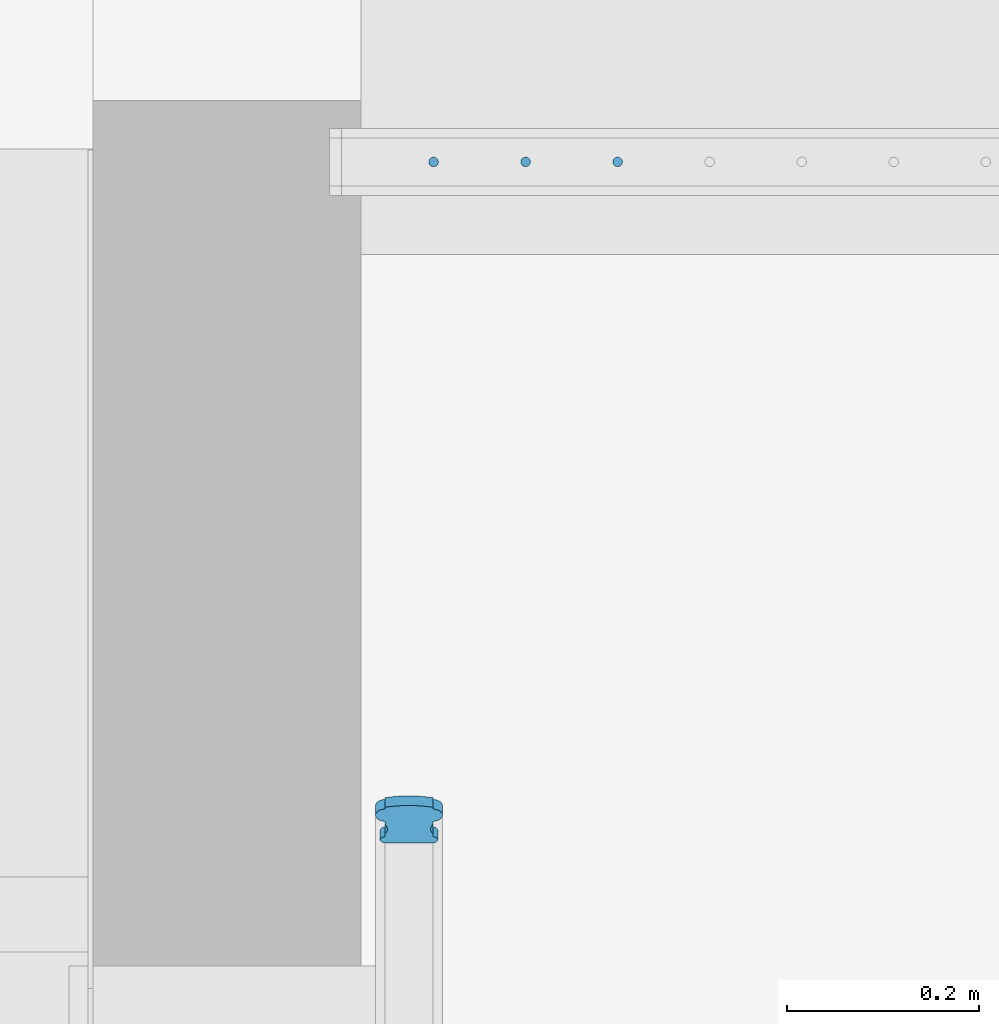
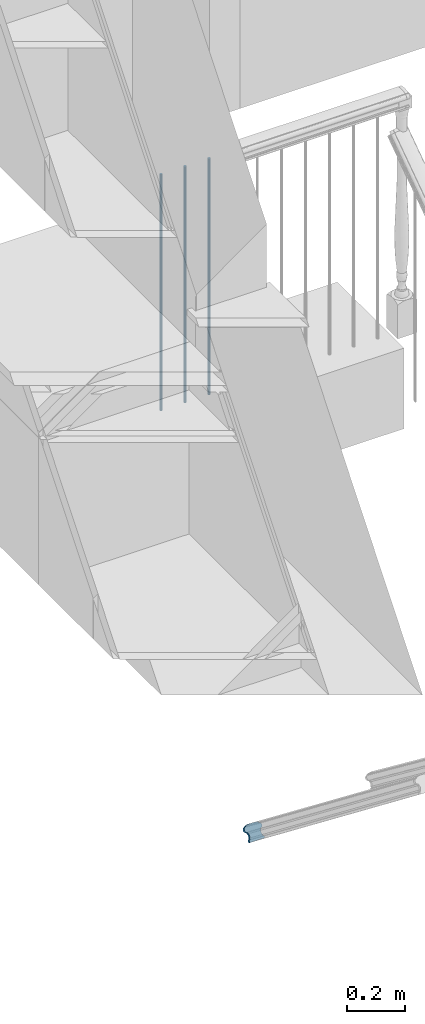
# One storey, part 21 of 77: 4 building element parts, 2 elements without a shape of their own.
"""IFC2X3 building model written with IfcOpenShell, lengths in inches."""

from ifc_helpers import new_model, entity, si_unit, converted_unit, derived_unit, money_unit, direction, frame, origin_with_axes, place, context, subcontext, project, spatial, faceted_brep, material, type_object, element, aggregate, save


model = new_model("IFC2X3")

# Units and contexts
model_context = context("Model", 3, precision=0.000393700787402, world=origin_with_axes(), true_north=direction((0.0, 1.0)))
body_context = subcontext(model_context, "Body", "Model", "MODEL_VIEW")
ifc_project = project(units=[converted_unit("LENGTHUNIT", "INCH", entity("IfcPositiveLengthMeasure", 0.0254), si_unit("LENGTHUNIT", "METRE"), dimensions=[1, 0, 0, 0, 0, 0, 0]), converted_unit("AREAUNIT", "SQUARE_FOOT", entity("IfcPositiveLengthMeasure", 0.09290304), si_unit("AREAUNIT", "SQUARE_METRE"), dimensions=[2, 0, 0, 0, 0, 0, 0]), si_unit("PLANEANGLEUNIT", "RADIAN"), si_unit("SOLIDANGLEUNIT", "STERADIAN"), money_unit("USD"), converted_unit("TIMEUNIT", "Year", entity("IfcTimeMeasure", 31556926.0), si_unit("TIMEUNIT", "SECOND"), dimensions=[0, 0, 1, 0, 0, 0, 0]), si_unit("MASSUNIT", "GRAM", prefix="KILO"), si_unit("THERMODYNAMICTEMPERATUREUNIT", "DEGREE_CELSIUS"), si_unit("LUMINOUSINTENSITYUNIT", "LUMEN"), si_unit("ENERGYUNIT", "JOULE", prefix="MEGA"), derived_unit("THERMALCONDUCTANCEUNIT", [(si_unit("POWERUNIT", "WATT"), 1), (si_unit("LENGTHUNIT", "METRE"), -1), (si_unit("THERMODYNAMICTEMPERATUREUNIT", "KELVIN"), -1)]), derived_unit("SPECIFICHEATCAPACITYUNIT", [(si_unit("ENERGYUNIT", "JOULE"), 1), (si_unit("MASSUNIT", "GRAM", prefix="KILO"), -1), (si_unit("THERMODYNAMICTEMPERATUREUNIT", "KELVIN"), -1)]), derived_unit("MASSDENSITYUNIT", [(si_unit("MASSUNIT", "GRAM", prefix="KILO"), 1), (si_unit("VOLUMEUNIT", "CUBIC_METRE"), -1)])], contexts=[model_context])

# Site, building, storey
site_placement = place(None, origin_with_axes())
site = spatial("IfcSite", under=ifc_project, at=site_placement, Name="Site", CompositionType="ELEMENT")
building_placement = place(site_placement, origin_with_axes())
building = spatial("IfcBuilding", under=site, at=building_placement, Name="Building", CompositionType="ELEMENT")
storey_placement = place(building_placement, frame((0.0, 0.0, 127.952755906), z_axis=(0.0, 0.0, 1.0), x_axis=(1.0, 0.0, 0.0)))
storey = spatial("IfcBuildingStorey", under=building, at=storey_placement, Name="Second Floor", CompositionType="ELEMENT", Elevation=127.953)

# Railing, building element part
railing_type = type_object("IfcRailingType", Name="Railing Type", PredefinedType="NOTDEFINED")
railing_1_placement = place(storey_placement, frame((643.989643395, 72.4015497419, -92.1176470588), z_axis=(0.0, 0.0, 1.0), x_axis=(-1.0, 0.0, 0.0)))
railing_1 = element("IfcRailing", 1, at=railing_1_placement, inside=storey, type_object=railing_type, Name="RAILING - 001", PredefinedType="NOTDEFINED")
ifc_material_1 = material(Name="Wood - Structural")
building_element_part_1_placement = place(railing_1_placement, origin_with_axes())
building_element_part_1 = element("IfcBuildingElementPart", 2, at=building_element_part_1_placement, material=ifc_material_1, Name="Wood - Structural", context=body_context, shape_type="Brep", body=[
    faceted_brep([(-2.9587001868, -45.9531464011, 39.9032696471), (-2.9587001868, -45.8777385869, 39.8065392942), (-2.9587001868, -46.2720724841, 39.4991295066), (-2.9587001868, -46.3474802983, 39.5958598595), (-2.90015196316, -45.961905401, 39.914505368), (-2.53034410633, -46.0044996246, 39.9691436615), (-2.15626030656, -46.025878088, 39.9965671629), (-1.78074756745, -46.025878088, 39.9965671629), (-1.40666376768, -46.0044996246, 39.9691436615), (-1.03685591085, -45.961905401, 39.914505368), (-0.978307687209, -45.9531464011, 39.9032696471), (-0.978307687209, -45.8777385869, 39.8065392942), (-0.944769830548, -45.8767820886, 39.8053123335), (-0.87871314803, -45.8691737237, 39.7955526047), (-0.815682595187, -45.8541881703, 39.7763296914), (-0.757593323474, -45.8322807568, 39.7482276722), (-0.706210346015, -45.8041171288, 39.7121004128), (-0.663094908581, -45.7705530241, 39.6690456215), (-0.62955705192, -45.7326082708, 39.6203714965), (-0.606615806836, -45.6914358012, 39.5675569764), (-0.594968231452, -45.6482866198, 39.5122068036), (-0.594968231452, -45.6044717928, 39.4560027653), (-0.606615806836, -45.5613226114, 39.4006525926), (-0.62955705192, -45.5201501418, 39.3478380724), (-0.663094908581, -45.4822053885, 39.2991639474), (-0.706210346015, -45.4486412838, 39.2561091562), (-0.757593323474, -45.4204776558, 39.2199818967), (-0.815682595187, -45.3985702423, 39.1918798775), (-0.87871314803, -45.3835846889, 39.1726569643), (-0.944769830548, -45.375976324, 39.1628972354), (-0.978307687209, -45.3750198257, 39.1616702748), (-0.978307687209, -45.2493401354, 39.0004530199), (-1.00088455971, -45.230006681, 38.9756527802), (-1.04067773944, -45.184984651, 38.9179001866), (-1.06789787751, -45.1361328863, 38.855234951), (-1.08171790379, -45.0849357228, 38.7895611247), (-1.08171790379, -45.0329487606, 38.7228741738), (-1.06789787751, -44.9817515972, 38.6572003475), (-1.04067773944, -44.9328998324, 38.5945351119), (-1.00088455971, -44.8878778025, 38.5367825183), (-0.978307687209, -44.8685443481, 38.5119822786), (-0.978307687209, -44.7428646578, 38.3507650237), (-0.961538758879, -44.7423864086, 38.3501515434), (-0.928510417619, -44.7385822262, 38.345271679), (-0.896995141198, -44.7310894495, 38.3356602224), (-0.867950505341, -44.7201357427, 38.3216092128), (-0.842259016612, -44.7060539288, 38.303545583), (-0.820701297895, -44.6892718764, 38.2820181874), (-0.803932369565, -44.6702994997, 38.2576811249), (-0.792461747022, -44.6497132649, 38.2312738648), (-0.78663795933, -44.6281386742, 38.2035987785), (-0.78663795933, -44.6062312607, 38.1754967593), (-0.792461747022, -44.5846566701, 38.1478216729), (-0.803932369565, -44.5640704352, 38.1214144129), (-0.820701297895, -44.5450980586, 38.0970773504), (-0.842259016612, -44.5283160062, 38.0755499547), (-0.867950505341, -44.5142341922, 38.057486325), (-0.896995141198, -44.5032804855, 38.0434353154), (-0.928510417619, -44.4957877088, 38.0338238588), (-0.961538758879, -44.4919835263, 38.0289439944), (-0.978307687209, -44.4915052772, 38.028330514), (-2.9587001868, -44.4915052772, 38.028330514), (-2.97546911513, -44.4919835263, 38.0289439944), (-3.00849745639, -44.4957877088, 38.0338238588), (-3.04001273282, -44.5032804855, 38.0434353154), (-3.06905736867, -44.5142341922, 38.057486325), (-3.0947488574, -44.5283160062, 38.0755499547), (-3.11630657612, -44.5450980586, 38.0970773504), (-3.13307550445, -44.5640704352, 38.1214144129), (-3.14454612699, -44.5846566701, 38.1478216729), (-3.15036991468, -44.6062312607, 38.1754967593), (-3.15036991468, -44.6281386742, 38.2035987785), (-3.14454612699, -44.6497132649, 38.2312738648), (-3.13307550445, -44.6702994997, 38.2576811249), (-3.11630657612, -44.6892718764, 38.2820181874), (-3.0947488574, -44.7060539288, 38.303545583), (-3.06905736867, -44.7201357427, 38.3216092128), (-3.04001273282, -44.7310894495, 38.3356602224), (-3.00849745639, -44.7385822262, 38.345271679), (-2.97546911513, -44.7423864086, 38.3501515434), (-2.9587001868, -44.7428646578, 38.3507650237), (-2.9587001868, -44.8685443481, 38.5119822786), (-2.93612331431, -44.8878778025, 38.5367825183), (-2.89633013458, -44.9328998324, 38.5945351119), (-2.86910999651, -44.9817515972, 38.6572003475), (-2.85528997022, -45.0329487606, 38.7228741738), (-2.85528997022, -45.0849357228, 38.7895611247), (-2.86910999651, -45.1361328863, 38.855234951), (-2.89633013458, -45.184984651, 38.9179001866), (-2.93612331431, -45.230006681, 38.9756527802), (-2.9587001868, -45.2493401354, 39.0004530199), (-2.9587001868, -45.3750198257, 39.1616702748), (-2.99223804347, -45.375976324, 39.1628972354), (-3.05829472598, -45.3835846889, 39.1726569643), (-3.12132527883, -45.3985702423, 39.1918798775), (-3.17941455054, -45.4204776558, 39.2199818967), (-3.230797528, -45.4486412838, 39.2561091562), (-3.27391296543, -45.4822053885, 39.2991639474), (-3.30745082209, -45.5201501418, 39.3478380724), (-3.33039206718, -45.5613226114, 39.4006525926), (-3.34203964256, -45.6044717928, 39.4560027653), (-3.34203964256, -45.6482866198, 39.5122068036), (-3.33039206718, -45.6914358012, 39.5675569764), (-3.30745082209, -45.7326082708, 39.6203714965), (-3.27391296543, -45.7705530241, 39.6690456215), (-3.230797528, -45.8041171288, 39.7121004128), (-3.17941455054, -45.8322807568, 39.7482276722), (-3.12132527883, -45.8541881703, 39.7763296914), (-3.05829472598, -45.8691737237, 39.7955526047), (-2.99223804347, -45.8767820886, 39.8053123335), (-2.99223804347, -46.2711159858, 39.4979025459), (-3.05829472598, -46.2635076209, 39.4881428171), (-3.12132527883, -46.2485220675, 39.4689199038), (-3.17941455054, -46.226614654, 39.4408178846), (-3.230797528, -46.198451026, 39.4046906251), (-3.27391296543, -46.1648869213, 39.3616358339), (-3.30745082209, -46.126942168, 39.3129617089), (-3.33039206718, -46.0857696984, 39.2601471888), (-3.34203964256, -46.042620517, 39.204797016), (-3.34203964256, -45.99880569, 39.1485929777), (-3.33039206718, -45.9556565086, 39.0932428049), (-3.30745082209, -45.914484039, 39.0404282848), (-3.27391296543, -45.8765392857, 38.9917541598), (-3.230797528, -45.842975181, 38.9486993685), (-3.17941455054, -45.814811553, 38.9125721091), (-3.12132527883, -45.7929041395, 38.8844700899), (-3.05829472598, -45.7779185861, 38.8652471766), (-2.99223804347, -45.7703102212, 38.8554874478), (-2.9587001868, -45.7693537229, 38.8542604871), (-2.9587001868, -45.6436740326, 38.6930432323), (-2.93612331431, -45.6243405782, 38.6682429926), (-2.89633013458, -45.5793185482, 38.610490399), (-2.86910999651, -45.5304667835, 38.5478251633), (-2.85528997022, -45.47926962, 38.4821513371), (-2.85528997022, -45.4272826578, 38.4154643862), (-2.86910999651, -45.3760854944, 38.3497905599), (-2.89633013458, -45.3272337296, 38.2871253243), (-2.93612331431, -45.2822116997, 38.2293727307), (-2.9587001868, -45.2628782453, 38.204572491), (-2.9587001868, -45.137198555, 38.0433552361), (-2.97546911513, -45.1367203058, 38.0427417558), (-3.00849745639, -45.1329161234, 38.0378618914), (-3.04001273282, -45.1254233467, 38.0282504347), (-3.06905736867, -45.1144696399, 38.0141994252), (-3.0947488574, -45.1003878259, 37.9961357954), (-3.11630657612, -45.0836057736, 37.9746083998), (-3.13307550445, -45.0646333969, 37.9502713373), (-3.14454612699, -45.0440471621, 37.9238640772), (-3.15036991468, -45.0224725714, 37.8961889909), (-3.15036991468, -45.0005651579, 37.8680869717), (-3.14454612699, -44.9789905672, 37.8404118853), (-3.13307550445, -44.9584043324, 37.8140046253), (-3.11630657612, -44.9394319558, 37.7896675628), (-3.0947488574, -44.9226499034, 37.7681401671), (-3.06905736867, -44.9085680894, 37.7500765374), (-3.04001273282, -44.8976143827, 37.7360255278), (-3.00849745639, -44.890121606, 37.7264140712), (-2.97546911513, -44.8863174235, 37.7215342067), (-2.9587001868, -44.8858391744, 37.7209207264), (-0.978307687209, -44.8858391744, 37.7209207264), (-0.961538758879, -44.8863174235, 37.7215342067), (-0.928510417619, -44.890121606, 37.7264140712), (-0.896995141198, -44.8976143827, 37.7360255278), (-0.867950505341, -44.9085680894, 37.7500765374), (-0.842259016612, -44.9226499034, 37.7681401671), (-0.820701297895, -44.9394319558, 37.7896675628), (-0.803932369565, -44.9584043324, 37.8140046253), (-0.792461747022, -44.9789905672, 37.8404118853), (-0.78663795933, -45.0005651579, 37.8680869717), (-0.78663795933, -45.0224725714, 37.8961889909), (-0.792461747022, -45.0440471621, 37.9238640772), (-0.803932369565, -45.0646333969, 37.9502713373), (-0.820701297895, -45.0836057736, 37.9746083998), (-0.842259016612, -45.1003878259, 37.9961357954), (-0.867950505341, -45.1144696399, 38.0141994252), (-0.896995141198, -45.1254233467, 38.0282504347), (-0.928510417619, -45.1329161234, 38.0378618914), (-0.961538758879, -45.1367203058, 38.0427417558), (-0.978307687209, -45.137198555, 38.0433552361), (-0.978307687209, -45.2628782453, 38.204572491), (-1.00088455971, -45.2822116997, 38.2293727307), (-1.04067773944, -45.3272337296, 38.2871253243), (-1.06789787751, -45.3760854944, 38.3497905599), (-1.08171790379, -45.4272826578, 38.4154643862), (-1.08171790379, -45.47926962, 38.4821513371), (-1.06789787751, -45.5304667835, 38.5478251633), (-1.04067773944, -45.5793185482, 38.610490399), (-1.00088455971, -45.6243405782, 38.6682429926), (-0.978307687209, -45.6436740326, 38.6930432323), (-0.978307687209, -45.7693537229, 38.8542604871), (-0.944769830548, -45.7703102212, 38.8554874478), (-0.87871314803, -45.7779185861, 38.8652471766), (-0.815682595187, -45.7929041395, 38.8844700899), (-0.757593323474, -45.814811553, 38.9125721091), (-0.706210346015, -45.842975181, 38.9486993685), (-0.663094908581, -45.8765392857, 38.9917541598), (-0.62955705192, -45.914484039, 39.0404282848), (-0.606615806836, -45.9556565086, 39.0932428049), (-0.594968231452, -45.99880569, 39.1485929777), (-0.594968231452, -46.042620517, 39.204797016), (-0.606615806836, -46.0857696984, 39.2601471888), (-0.62955705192, -46.126942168, 39.3129617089), (-0.663094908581, -46.1648869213, 39.3616358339), (-0.706210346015, -46.198451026, 39.4046906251), (-0.757593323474, -46.226614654, 39.4408178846), (-0.815682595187, -46.2485220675, 39.4689199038), (-0.87871314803, -46.2635076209, 39.4881428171), (-0.944769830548, -46.2711159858, 39.4979025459), (-0.978307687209, -46.2720724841, 39.4991295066), (-0.978307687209, -46.3474802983, 39.5958598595), (-1.03685591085, -46.3562392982, 39.6070955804), (-1.40666376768, -46.3988335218, 39.6617338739), (-1.78074756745, -46.4202119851, 39.6891573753), (-2.15626030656, -46.4202119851, 39.6891573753), (-2.53034410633, -46.3988335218, 39.6617338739), (-2.90015196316, -46.3562392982, 39.6070955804)], [[[0, 1, 2, 3]], [[0, 4, 5, 6, 7, 8, 9, 10, 11, 12, 13, 14, 15, 16, 17, 18, 19, 20, 21, 22, 23, 24, 25, 26, 27, 28, 29, 30, 31, 32, 33, 34, 35, 36, 37, 38, 39, 40, 41, 42, 43, 44, 45, 46, 47, 48, 49, 50, 51, 52, 53, 54, 55, 56, 57, 58, 59, 60, 61, 62, 63, 64, 65, 66, 67, 68, 69, 70, 71, 72, 73, 74, 75, 76, 77, 78, 79, 80, 81, 82, 83, 84, 85, 86, 87, 88, 89, 90, 91, 92, 93, 94, 95, 96, 97, 98, 99, 100, 101, 102, 103, 104, 105, 106, 107, 108, 109, 1]], [[1, 109, 110, 2]], [[3, 2, 110, 111, 112, 113, 114, 115, 116, 117, 118, 119, 120, 121, 122, 123, 124, 125, 126, 127, 128, 129, 130, 131, 132, 133, 134, 135, 136, 137, 138, 139, 140, 141, 142, 143, 144, 145, 146, 147, 148, 149, 150, 151, 152, 153, 154, 155, 156, 157, 158, 159, 160, 161, 162, 163, 164, 165, 166, 167, 168, 169, 170, 171, 172, 173, 174, 175, 176, 177, 178, 179, 180, 181, 182, 183, 184, 185, 186, 187, 188, 189, 190, 191, 192, 193, 194, 195, 196, 197, 198, 199, 200, 201, 202, 203, 204, 205, 206, 207, 208, 209, 210, 211, 212, 213, 214, 215]], [[4, 0, 3, 215]], [[5, 4, 215, 214]], [[6, 5, 214, 213]], [[7, 6, 213, 212]], [[8, 7, 212, 211]], [[9, 8, 211, 210]], [[10, 9, 210, 209]], [[11, 10, 209, 208]], [[12, 11, 208, 207]], [[13, 12, 207, 206]], [[14, 13, 206, 205]], [[15, 14, 205, 204]], [[16, 15, 204, 203]], [[17, 16, 203, 202]], [[18, 17, 202, 201]], [[19, 18, 201, 200]], [[20, 19, 200, 199]], [[21, 20, 199, 198]], [[22, 21, 198, 197]], [[23, 22, 197, 196]], [[24, 23, 196, 195]], [[25, 24, 195, 194]], [[26, 25, 194, 193]], [[27, 26, 193, 192]], [[28, 27, 192, 191]], [[29, 28, 191, 190]], [[30, 29, 190, 189]], [[31, 30, 189, 188]], [[32, 31, 188, 187]], [[33, 32, 187, 186]], [[34, 33, 186, 185]], [[35, 34, 185, 184]], [[36, 35, 184, 183]], [[37, 36, 183, 182]], [[38, 37, 182, 181]], [[39, 38, 181, 180]], [[40, 39, 180, 179]], [[41, 40, 179, 178]], [[42, 41, 178, 177]], [[43, 42, 177, 176]], [[44, 43, 176, 175]], [[45, 44, 175, 174]], [[46, 45, 174, 173]], [[47, 46, 173, 172]], [[48, 47, 172, 171]], [[49, 48, 171, 170]], [[50, 49, 170, 169]], [[51, 50, 169, 168]], [[52, 51, 168, 167]], [[53, 52, 167, 166]], [[54, 53, 166, 165]], [[55, 54, 165, 164]], [[56, 55, 164, 163]], [[57, 56, 163, 162]], [[58, 57, 162, 161]], [[59, 58, 161, 160]], [[60, 59, 160, 159]], [[61, 60, 159, 158]], [[62, 61, 158, 157]], [[63, 62, 157, 156]], [[64, 63, 156, 155]], [[65, 64, 155, 154]], [[66, 65, 154, 153]], [[67, 66, 153, 152]], [[68, 67, 152, 151]], [[69, 68, 151, 150]], [[70, 69, 150, 149]], [[71, 70, 149, 148]], [[72, 71, 148, 147]], [[73, 72, 147, 146]], [[74, 73, 146, 145]], [[75, 74, 145, 144]], [[76, 75, 144, 143]], [[77, 76, 143, 142]], [[78, 77, 142, 141]], [[79, 78, 141, 140]], [[80, 79, 140, 139]], [[81, 80, 139, 138]], [[82, 81, 138, 137]], [[83, 82, 137, 136]], [[84, 83, 136, 135]], [[85, 84, 135, 134]], [[86, 85, 134, 133]], [[87, 86, 133, 132]], [[88, 87, 132, 131]], [[89, 88, 131, 130]], [[90, 89, 130, 129]], [[91, 90, 129, 128]], [[92, 91, 128, 127]], [[93, 92, 127, 126]], [[94, 93, 126, 125]], [[95, 94, 125, 124]], [[96, 95, 124, 123]], [[97, 96, 123, 122]], [[98, 97, 122, 121]], [[99, 98, 121, 120]], [[100, 99, 120, 119]], [[101, 100, 119, 118]], [[102, 101, 118, 117]], [[103, 102, 117, 116]], [[104, 103, 116, 115]], [[105, 104, 115, 114]], [[106, 105, 114, 113]], [[107, 106, 113, 112]], [[108, 107, 112, 111]], [[109, 108, 111, 110]]]),
])
aggregate(railing_1, [building_element_part_1])

# Railing, building element parts
railing_2_placement = place(storey_placement, frame((643.187139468, 142.90717231, 0.0), z_axis=(0.0, 0.0, 1.0), x_axis=(0.0, 1.0, 0.0)))
railing_2 = element("IfcRailing", 3, at=railing_2_placement, inside=storey, type_object=railing_type, Name="RAILING - 001", PredefinedType="NOTDEFINED")
ifc_material_2 = material(Name="Steel - Structural")
building_element_part_2_placement = place(railing_2_placement, origin_with_axes())
building_element_part_2 = element("IfcBuildingElementPart", 4, at=building_element_part_2_placement, material=ifc_material_2, Name="Steel - Structural", context=body_context, shape_type="Brep", body=[
    faceted_brep([(1.96850393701, -3.58498841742, -4.94161422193e-07), (1.93432122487, -3.58797901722, -4.94161422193e-07), (1.93432122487, -3.58797901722, 39.2125984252), (1.96850393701, -3.58498841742, 39.2125984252), (2.00268664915, -3.58797901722, -4.94161422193e-07), (2.03583073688, -3.59685994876, -4.94161422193e-07), (2.06692913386, -3.61136136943, -4.94161422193e-07), (2.09503693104, -3.6310426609, -4.94161422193e-07), (2.11930008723, -3.65530581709, -4.94161422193e-07), (2.1389813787, -3.68341361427, -4.94161422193e-07), (2.15348279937, -3.71451201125, -4.94161422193e-07), (2.16236373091, -3.74765609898, -4.94161422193e-07), (2.16535433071, -3.78183881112, -4.94161422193e-07), (2.16236373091, -3.81602152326, -4.94161422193e-07), (2.15348279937, -3.84916561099, -4.94161422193e-07), (2.1389813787, -3.88026400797, -4.94161422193e-07), (2.11930008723, -3.90837180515, -4.94161422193e-07), (2.09503693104, -3.93263496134, -4.94161422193e-07), (2.06692913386, -3.95231625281, -4.94161422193e-07), (2.03583073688, -3.96681767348, -4.94161422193e-07), (2.00268664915, -3.97569860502, -4.94161422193e-07), (1.96850393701, -3.97868920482, -4.94161422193e-07), (1.93432122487, -3.97569860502, -4.94161422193e-07), (1.90117713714, -3.96681767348, -4.94161422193e-07), (1.87007874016, -3.95231625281, -4.94161422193e-07), (1.84197094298, -3.93263496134, -4.94161422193e-07), (1.81770778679, -3.90837180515, -4.94161422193e-07), (1.79802649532, -3.88026400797, -4.94161422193e-07), (1.78352507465, -3.84916561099, -4.94161422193e-07), (1.77464414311, -3.81602152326, -4.94161422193e-07), (1.77165354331, -3.78183881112, -4.94161422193e-07), (1.77464414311, -3.74765609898, -4.94161422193e-07), (1.78352507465, -3.71451201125, -4.94161422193e-07), (1.79802649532, -3.68341361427, -4.94161422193e-07), (1.81770778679, -3.65530581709, -4.94161422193e-07), (1.84197094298, -3.6310426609, -4.94161422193e-07), (1.87007874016, -3.61136136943, -4.94161422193e-07), (1.90117713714, -3.59685994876, -4.94161422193e-07), (1.90117713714, -3.59685994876, 39.2125984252), (1.87007874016, -3.61136136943, 39.2125984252), (1.84197094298, -3.6310426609, 39.2125984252), (1.81770778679, -3.65530581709, 39.2125984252), (1.79802649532, -3.68341361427, 39.2125984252), (1.78352507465, -3.71451201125, 39.2125984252), (1.77464414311, -3.74765609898, 39.2125984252), (1.77165354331, -3.78183881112, 39.2125984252), (1.77464414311, -3.81602152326, 39.2125984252), (1.78352507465, -3.84916561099, 39.2125984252), (1.79802649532, -3.88026400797, 39.2125984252), (1.81770778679, -3.90837180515, 39.2125984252), (1.84197094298, -3.93263496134, 39.2125984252), (1.87007874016, -3.95231625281, 39.2125984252), (1.90117713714, -3.96681767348, 39.2125984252), (1.93432122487, -3.97569860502, 39.2125984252), (1.96850393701, -3.97868920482, 39.2125984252), (2.00268664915, -3.97569860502, 39.2125984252), (2.03583073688, -3.96681767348, 39.2125984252), (2.06692913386, -3.95231625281, 39.2125984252), (2.09503693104, -3.93263496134, 39.2125984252), (2.11930008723, -3.90837180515, 39.2125984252), (2.1389813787, -3.88026400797, 39.2125984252), (2.15348279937, -3.84916561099, 39.2125984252), (2.16236373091, -3.81602152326, 39.2125984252), (2.16535433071, -3.78183881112, 39.2125984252), (2.16236373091, -3.74765609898, 39.2125984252), (2.15348279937, -3.71451201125, 39.2125984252), (2.1389813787, -3.68341361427, 39.2125984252), (2.11930008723, -3.65530581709, 39.2125984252), (2.09503693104, -3.6310426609, 39.2125984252), (2.06692913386, -3.61136136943, 39.2125984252), (2.03583073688, -3.59685994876, 39.2125984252), (2.00268664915, -3.58797901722, 39.2125984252)], [[[0, 1, 2, 3]], [[0, 4, 5, 6, 7, 8, 9, 10, 11, 12, 13, 14, 15, 16, 17, 18, 19, 20, 21, 22, 23, 24, 25, 26, 27, 28, 29, 30, 31, 32, 33, 34, 35, 36, 37, 1]], [[1, 37, 38, 2]], [[3, 2, 38, 39, 40, 41, 42, 43, 44, 45, 46, 47, 48, 49, 50, 51, 52, 53, 54, 55, 56, 57, 58, 59, 60, 61, 62, 63, 64, 65, 66, 67, 68, 69, 70, 71]], [[4, 0, 3, 71]], [[5, 4, 71, 70]], [[6, 5, 70, 69]], [[7, 6, 69, 68]], [[8, 7, 68, 67]], [[9, 8, 67, 66]], [[10, 9, 66, 65]], [[11, 10, 65, 64]], [[12, 11, 64, 63]], [[13, 12, 63, 62]], [[14, 13, 62, 61]], [[15, 14, 61, 60]], [[16, 15, 60, 59]], [[17, 16, 59, 58]], [[18, 17, 58, 57]], [[19, 18, 57, 56]], [[20, 19, 56, 55]], [[21, 20, 55, 54]], [[22, 21, 54, 53]], [[23, 22, 53, 52]], [[24, 23, 52, 51]], [[25, 24, 51, 50]], [[26, 25, 50, 49]], [[27, 26, 49, 48]], [[28, 27, 48, 47]], [[29, 28, 47, 46]], [[30, 29, 46, 45]], [[31, 30, 45, 44]], [[32, 31, 44, 43]], [[33, 32, 43, 42]], [[34, 33, 42, 41]], [[35, 34, 41, 40]], [[36, 35, 40, 39]], [[37, 36, 39, 38]]]),
])
building_element_part_3_placement = place(railing_2_placement, origin_with_axes())
building_element_part_3 = element("IfcBuildingElementPart", 5, at=building_element_part_3_placement, material=ifc_material_2, Name="Steel - Structural", context=body_context, shape_type="Brep", body=[
    faceted_brep([(1.96850393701, -7.36682722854, -4.94161422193e-07), (1.93432122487, -7.36981782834, -4.94161422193e-07), (1.93432122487, -7.36981782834, 39.2125984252), (1.96850393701, -7.36682722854, 39.2125984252), (2.00268664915, -7.36981782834, -4.94161422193e-07), (2.03583073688, -7.37869875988, -4.94161422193e-07), (2.06692913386, -7.39320018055, -4.94161422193e-07), (2.09503693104, -7.41288147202, -4.94161422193e-07), (2.11930008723, -7.43714462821, -4.94161422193e-07), (2.1389813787, -7.46525242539, -4.94161422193e-07), (2.15348279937, -7.49635082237, -4.94161422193e-07), (2.16236373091, -7.5294949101, -4.94161422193e-07), (2.16535433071, -7.56367762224, -4.94161422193e-07), (2.16236373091, -7.59786033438, -4.94161422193e-07), (2.15348279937, -7.63100442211, -4.94161422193e-07), (2.1389813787, -7.66210281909, -4.94161422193e-07), (2.11930008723, -7.69021061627, -4.94161422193e-07), (2.09503693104, -7.71447377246, -4.94161422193e-07), (2.06692913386, -7.73415506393, -4.94161422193e-07), (2.03583073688, -7.7486564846, -4.94161422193e-07), (2.00268664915, -7.75753741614, -4.94161422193e-07), (1.96850393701, -7.76052801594, -4.94161422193e-07), (1.93432122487, -7.75753741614, -4.94161422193e-07), (1.90117713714, -7.7486564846, -4.94161422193e-07), (1.87007874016, -7.73415506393, -4.94161422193e-07), (1.84197094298, -7.71447377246, -4.94161422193e-07), (1.81770778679, -7.69021061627, -4.94161422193e-07), (1.79802649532, -7.66210281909, -4.94161422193e-07), (1.78352507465, -7.63100442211, -4.94161422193e-07), (1.77464414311, -7.59786033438, -4.94161422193e-07), (1.77165354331, -7.56367762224, -4.94161422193e-07), (1.77464414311, -7.5294949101, -4.94161422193e-07), (1.78352507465, -7.49635082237, -4.94161422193e-07), (1.79802649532, -7.46525242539, -4.94161422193e-07), (1.81770778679, -7.43714462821, -4.94161422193e-07), (1.84197094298, -7.41288147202, -4.94161422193e-07), (1.87007874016, -7.39320018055, -4.94161422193e-07), (1.90117713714, -7.37869875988, -4.94161422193e-07), (1.90117713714, -7.37869875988, 39.2125984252), (1.87007874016, -7.39320018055, 39.2125984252), (1.84197094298, -7.41288147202, 39.2125984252), (1.81770778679, -7.43714462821, 39.2125984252), (1.79802649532, -7.46525242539, 39.2125984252), (1.78352507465, -7.49635082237, 39.2125984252), (1.77464414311, -7.5294949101, 39.2125984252), (1.77165354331, -7.56367762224, 39.2125984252), (1.77464414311, -7.59786033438, 39.2125984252), (1.78352507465, -7.63100442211, 39.2125984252), (1.79802649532, -7.66210281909, 39.2125984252), (1.81770778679, -7.69021061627, 39.2125984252), (1.84197094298, -7.71447377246, 39.2125984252), (1.87007874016, -7.73415506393, 39.2125984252), (1.90117713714, -7.7486564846, 39.2125984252), (1.93432122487, -7.75753741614, 39.2125984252), (1.96850393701, -7.76052801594, 39.2125984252), (2.00268664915, -7.75753741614, 39.2125984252), (2.03583073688, -7.7486564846, 39.2125984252), (2.06692913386, -7.73415506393, 39.2125984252), (2.09503693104, -7.71447377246, 39.2125984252), (2.11930008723, -7.69021061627, 39.2125984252), (2.1389813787, -7.66210281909, 39.2125984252), (2.15348279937, -7.63100442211, 39.2125984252), (2.16236373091, -7.59786033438, 39.2125984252), (2.16535433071, -7.56367762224, 39.2125984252), (2.16236373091, -7.5294949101, 39.2125984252), (2.15348279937, -7.49635082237, 39.2125984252), (2.1389813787, -7.46525242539, 39.2125984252), (2.11930008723, -7.43714462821, 39.2125984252), (2.09503693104, -7.41288147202, 39.2125984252), (2.06692913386, -7.39320018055, 39.2125984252), (2.03583073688, -7.37869875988, 39.2125984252), (2.00268664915, -7.36981782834, 39.2125984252)], [[[0, 1, 2, 3]], [[0, 4, 5, 6, 7, 8, 9, 10, 11, 12, 13, 14, 15, 16, 17, 18, 19, 20, 21, 22, 23, 24, 25, 26, 27, 28, 29, 30, 31, 32, 33, 34, 35, 36, 37, 1]], [[1, 37, 38, 2]], [[3, 2, 38, 39, 40, 41, 42, 43, 44, 45, 46, 47, 48, 49, 50, 51, 52, 53, 54, 55, 56, 57, 58, 59, 60, 61, 62, 63, 64, 65, 66, 67, 68, 69, 70, 71]], [[4, 0, 3, 71]], [[5, 4, 71, 70]], [[6, 5, 70, 69]], [[7, 6, 69, 68]], [[8, 7, 68, 67]], [[9, 8, 67, 66]], [[10, 9, 66, 65]], [[11, 10, 65, 64]], [[12, 11, 64, 63]], [[13, 12, 63, 62]], [[14, 13, 62, 61]], [[15, 14, 61, 60]], [[16, 15, 60, 59]], [[17, 16, 59, 58]], [[18, 17, 58, 57]], [[19, 18, 57, 56]], [[20, 19, 56, 55]], [[21, 20, 55, 54]], [[22, 21, 54, 53]], [[23, 22, 53, 52]], [[24, 23, 52, 51]], [[25, 24, 51, 50]], [[26, 25, 50, 49]], [[27, 26, 49, 48]], [[28, 27, 48, 47]], [[29, 28, 47, 46]], [[30, 29, 46, 45]], [[31, 30, 45, 44]], [[32, 31, 44, 43]], [[33, 32, 43, 42]], [[34, 33, 42, 41]], [[35, 34, 41, 40]], [[36, 35, 40, 39]], [[37, 36, 39, 38]]]),
])
building_element_part_4_placement = place(railing_2_placement, origin_with_axes())
building_element_part_4 = element("IfcBuildingElementPart", 6, at=building_element_part_4_placement, material=ifc_material_2, Name="Steel - Structural", context=body_context, shape_type="Brep", body=[
    faceted_brep([(1.96850393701, -11.1486660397, -4.94161422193e-07), (1.93432122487, -11.1516566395, -4.94161422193e-07), (1.93432122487, -11.1516566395, 39.2125984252), (1.96850393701, -11.1486660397, 39.2125984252), (2.00268664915, -11.1516566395, -4.94161422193e-07), (2.03583073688, -11.160537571, -4.94161422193e-07), (2.06692913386, -11.1750389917, -4.94161422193e-07), (2.09503693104, -11.1947202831, -4.94161422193e-07), (2.11930008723, -11.2189834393, -4.94161422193e-07), (2.1389813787, -11.2470912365, -4.94161422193e-07), (2.15348279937, -11.2781896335, -4.94161422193e-07), (2.16236373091, -11.3113337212, -4.94161422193e-07), (2.16535433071, -11.3455164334, -4.94161422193e-07), (2.16236373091, -11.3796991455, -4.94161422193e-07), (2.15348279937, -11.4128432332, -4.94161422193e-07), (2.1389813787, -11.4439416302, -4.94161422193e-07), (2.11930008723, -11.4720494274, -4.94161422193e-07), (2.09503693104, -11.4963125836, -4.94161422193e-07), (2.06692913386, -11.5159938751, -4.94161422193e-07), (2.03583073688, -11.5304952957, -4.94161422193e-07), (2.00268664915, -11.5393762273, -4.94161422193e-07), (1.96850393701, -11.5423668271, -4.94161422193e-07), (1.93432122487, -11.5393762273, -4.94161422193e-07), (1.90117713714, -11.5304952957, -4.94161422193e-07), (1.87007874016, -11.5159938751, -4.94161422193e-07), (1.84197094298, -11.4963125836, -4.94161422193e-07), (1.81770778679, -11.4720494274, -4.94161422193e-07), (1.79802649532, -11.4439416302, -4.94161422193e-07), (1.78352507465, -11.4128432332, -4.94161422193e-07), (1.77464414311, -11.3796991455, -4.94161422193e-07), (1.77165354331, -11.3455164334, -4.94161422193e-07), (1.77464414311, -11.3113337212, -4.94161422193e-07), (1.78352507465, -11.2781896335, -4.94161422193e-07), (1.79802649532, -11.2470912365, -4.94161422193e-07), (1.81770778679, -11.2189834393, -4.94161422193e-07), (1.84197094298, -11.1947202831, -4.94161422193e-07), (1.87007874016, -11.1750389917, -4.94161422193e-07), (1.90117713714, -11.160537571, -4.94161422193e-07), (1.90117713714, -11.160537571, 39.2125984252), (1.87007874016, -11.1750389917, 39.2125984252), (1.84197094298, -11.1947202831, 39.2125984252), (1.81770778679, -11.2189834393, 39.2125984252), (1.79802649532, -11.2470912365, 39.2125984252), (1.78352507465, -11.2781896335, 39.2125984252), (1.77464414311, -11.3113337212, 39.2125984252), (1.77165354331, -11.3455164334, 39.2125984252), (1.77464414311, -11.3796991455, 39.2125984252), (1.78352507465, -11.4128432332, 39.2125984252), (1.79802649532, -11.4439416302, 39.2125984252), (1.81770778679, -11.4720494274, 39.2125984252), (1.84197094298, -11.4963125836, 39.2125984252), (1.87007874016, -11.5159938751, 39.2125984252), (1.90117713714, -11.5304952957, 39.2125984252), (1.93432122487, -11.5393762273, 39.2125984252), (1.96850393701, -11.5423668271, 39.2125984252), (2.00268664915, -11.5393762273, 39.2125984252), (2.03583073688, -11.5304952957, 39.2125984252), (2.06692913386, -11.5159938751, 39.2125984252), (2.09503693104, -11.4963125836, 39.2125984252), (2.11930008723, -11.4720494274, 39.2125984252), (2.1389813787, -11.4439416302, 39.2125984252), (2.15348279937, -11.4128432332, 39.2125984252), (2.16236373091, -11.3796991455, 39.2125984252), (2.16535433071, -11.3455164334, 39.2125984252), (2.16236373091, -11.3113337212, 39.2125984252), (2.15348279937, -11.2781896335, 39.2125984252), (2.1389813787, -11.2470912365, 39.2125984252), (2.11930008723, -11.2189834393, 39.2125984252), (2.09503693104, -11.1947202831, 39.2125984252), (2.06692913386, -11.1750389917, 39.2125984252), (2.03583073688, -11.160537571, 39.2125984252), (2.00268664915, -11.1516566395, 39.2125984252)], [[[0, 1, 2, 3]], [[0, 4, 5, 6, 7, 8, 9, 10, 11, 12, 13, 14, 15, 16, 17, 18, 19, 20, 21, 22, 23, 24, 25, 26, 27, 28, 29, 30, 31, 32, 33, 34, 35, 36, 37, 1]], [[1, 37, 38, 2]], [[3, 2, 38, 39, 40, 41, 42, 43, 44, 45, 46, 47, 48, 49, 50, 51, 52, 53, 54, 55, 56, 57, 58, 59, 60, 61, 62, 63, 64, 65, 66, 67, 68, 69, 70, 71]], [[4, 0, 3, 71]], [[5, 4, 71, 70]], [[6, 5, 70, 69]], [[7, 6, 69, 68]], [[8, 7, 68, 67]], [[9, 8, 67, 66]], [[10, 9, 66, 65]], [[11, 10, 65, 64]], [[12, 11, 64, 63]], [[13, 12, 63, 62]], [[14, 13, 62, 61]], [[15, 14, 61, 60]], [[16, 15, 60, 59]], [[17, 16, 59, 58]], [[18, 17, 58, 57]], [[19, 18, 57, 56]], [[20, 19, 56, 55]], [[21, 20, 55, 54]], [[22, 21, 54, 53]], [[23, 22, 53, 52]], [[24, 23, 52, 51]], [[25, 24, 51, 50]], [[26, 25, 50, 49]], [[27, 26, 49, 48]], [[28, 27, 48, 47]], [[29, 28, 47, 46]], [[30, 29, 46, 45]], [[31, 30, 45, 44]], [[32, 31, 44, 43]], [[33, 32, 43, 42]], [[34, 33, 42, 41]], [[35, 34, 41, 40]], [[36, 35, 40, 39]], [[37, 36, 39, 38]]]),
])
aggregate(railing_2, [building_element_part_2, building_element_part_3, building_element_part_4])

save(model, "model.ifc")
